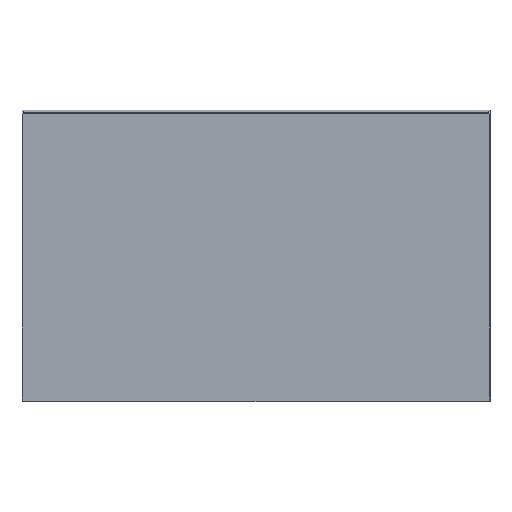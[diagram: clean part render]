
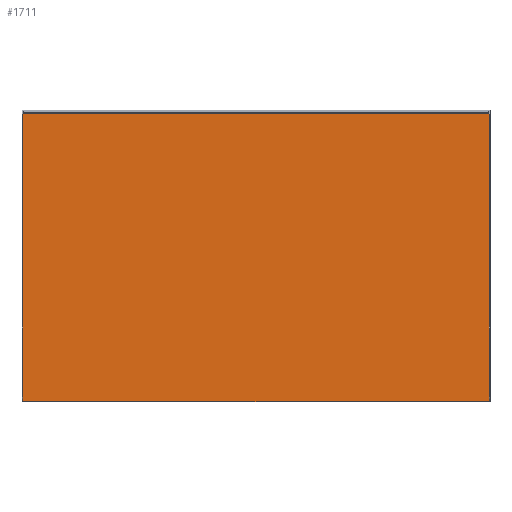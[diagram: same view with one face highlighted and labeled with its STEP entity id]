
A CAD part, front view. The second image highlights one B-rep face of the part: STEP entity #1711.
In plain terms, the highlighted planar face has unit normal (0, -1, 0).
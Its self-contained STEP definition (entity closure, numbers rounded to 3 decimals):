
#99 = DIRECTION ( 'NONE',  ( -1., 0., 0. ) ) ;
#103 = VERTEX_POINT ( 'NONE', #638 ) ;
#138 = CARTESIAN_POINT ( 'NONE',  ( 797., -20., 497. ) ) ;
#179 = DIRECTION ( 'NONE',  ( 0., 0., -1. ) ) ;
#192 = VERTEX_POINT ( 'NONE', #835 ) ;
#273 = VERTEX_POINT ( 'NONE', #300 ) ;
#300 = CARTESIAN_POINT ( 'NONE',  ( 797., -20., -497. ) ) ;
#471 = CARTESIAN_POINT ( 'NONE',  ( -797., -20., 497. ) ) ;
#538 = CARTESIAN_POINT ( 'NONE',  ( 0., -20., 0. ) ) ;
#613 = EDGE_CURVE ( 'NONE', #273, #1669, #1857, .T. ) ;
#638 = CARTESIAN_POINT ( 'NONE',  ( -797., -20., 497. ) ) ;
#725 = ORIENTED_EDGE ( 'NONE', *, *, #1069, .F. ) ;
#731 = LINE ( 'NONE', #1561, #885 ) ;
#753 = VECTOR ( 'NONE', #99, 1000. ) ;
#791 = CARTESIAN_POINT ( 'NONE',  ( -797., -20., -497. ) ) ;
#835 = CARTESIAN_POINT ( 'NONE',  ( 797., -20., 497. ) ) ;
#885 = VECTOR ( 'NONE', #1866, 1000. ) ;
#887 = LINE ( 'NONE', #471, #1026 ) ;
#898 = EDGE_CURVE ( 'NONE', #1669, #103, #731, .T. ) ;
#911 = ORIENTED_EDGE ( 'NONE', *, *, #1234, .F. ) ;
#997 = LINE ( 'NONE', #138, #1833 ) ;
#1026 = VECTOR ( 'NONE', #1465, 1000. ) ;
#1069 = EDGE_CURVE ( 'NONE', #103, #192, #887, .T. ) ;
#1085 = DIRECTION ( 'NONE',  ( 0., -1., 0. ) ) ;
#1088 = EDGE_LOOP ( 'NONE', ( #911, #725, #1204, #1696 ) ) ;
#1204 = ORIENTED_EDGE ( 'NONE', *, *, #898, .F. ) ;
#1234 = EDGE_CURVE ( 'NONE', #192, #273, #997, .T. ) ;
#1376 = PLANE ( 'NONE',  #1546 ) ;
#1465 = DIRECTION ( 'NONE',  ( 1., 0., 0. ) ) ;
#1520 = CARTESIAN_POINT ( 'NONE',  ( -797., -20., -497. ) ) ;
#1546 = AXIS2_PLACEMENT_3D ( 'NONE', #538, #1085, #1672 ) ;
#1561 = CARTESIAN_POINT ( 'NONE',  ( -797., -20., 497. ) ) ;
#1669 = VERTEX_POINT ( 'NONE', #791 ) ;
#1672 = DIRECTION ( 'NONE',  ( 0., 0., -1. ) ) ;
#1696 = ORIENTED_EDGE ( 'NONE', *, *, #613, .F. ) ;
#1711 = ADVANCED_FACE ( 'NONE', ( #1855 ), #1376, .T. ) ;
#1833 = VECTOR ( 'NONE', #179, 1000. ) ;
#1855 = FACE_OUTER_BOUND ( 'NONE', #1088, .T. ) ;
#1857 = LINE ( 'NONE', #1520, #753 ) ;
#1866 = DIRECTION ( 'NONE',  ( 0., 0., 1. ) ) ;
